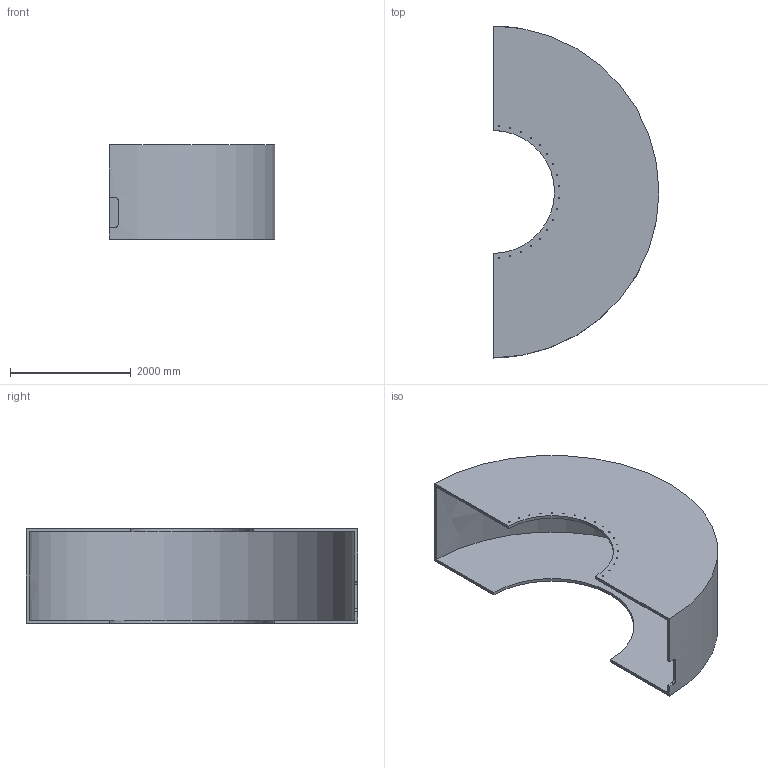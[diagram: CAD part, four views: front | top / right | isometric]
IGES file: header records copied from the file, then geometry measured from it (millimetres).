
Start section:  PTC IGES file: 02.igs
Global section: file name: 02.igs; native system: Pro/ENGINEER by Parametric Technology Corporation; preprocessor: 1999260; author: oshatz; organization: Unknown; date: 000922.101851; units: millimetre
Bounding box: 2750 x 5500 x 1568 mm (x, y, z)
Surface area: 64329063.5 mm2 (no closed solid volume)
Topology: 0 solids, 0 shells, 52 faces, 300 edges, 300 vertices
Faces by surface type: revolution 42, bspline 10
